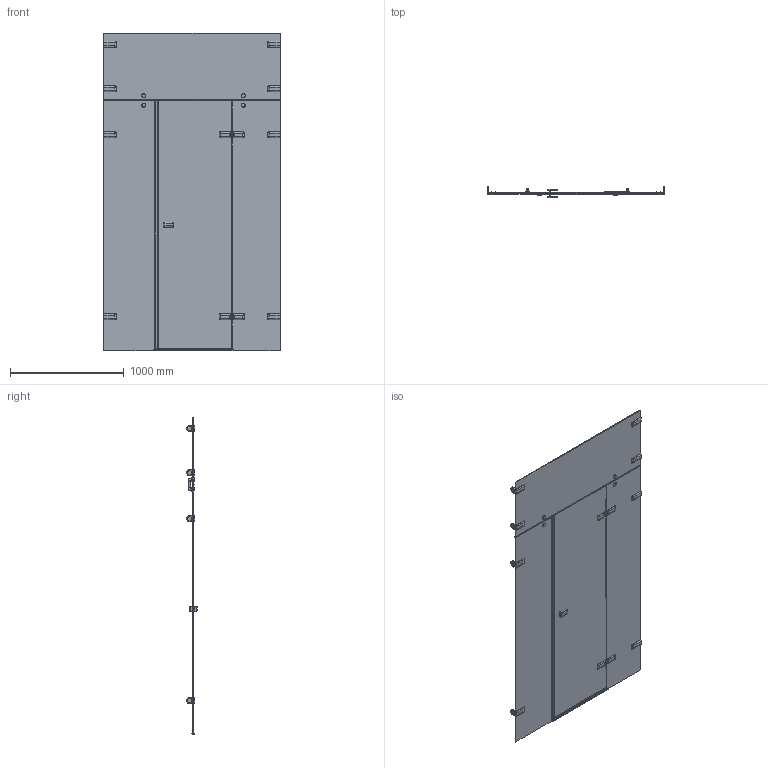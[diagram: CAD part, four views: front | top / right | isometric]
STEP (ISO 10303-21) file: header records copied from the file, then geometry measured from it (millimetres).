
FILE_DESCRIPTION(/* description */ (''),/* implementation_level */ '2;1');
FILE_NAME(/* name */ 'E:\Работа\Сергей\Душевые кабинки\! Работа\!!!\TREND DOOR GK-884ZF\TREND DOOR GK-884ZF правая модель\TREND DOOR GK-884ZF ПРАВАЯ-3D.stp',/* time_stamp */ '2017-12-24T20:39:23+03:00',/* author */ ('PC'),/* organization */ (''),/* preprocessor_version */ 'ST-DEVELOPER v15.2',/* originating_system */ 'Autodesk Inventor 2014',/* authorisation */ '');
FILE_SCHEMA (('AUTOMOTIVE_DESIGN { 1 0 10303 214 3 1 1 }'));
Products named in the file (1): TREND DOOR GK-884ZF  ПРАВАЯ-
3D
Bounding box: 1556 x 94.5 x 2796 mm (x, y, z)
Volume: 33174697.8 mm3; surface area: 9179065.5 mm2
Topology: 8 solids, 8 shells, 1714 faces, 4447 edges, 2738 vertices
Faces by surface type: plane 972, cylinder 418, bspline 182, torus 82, cone 34, sphere 26
Full cylindrical faces by diameter (mm): 6 x2, 9 x8, 13 x2, 20 x2, 21 x4, 35 x8, 36 x8, 40 x8
Entity records: 71864 total; most frequent: CARTESIAN_POINT 29578, ORIENTED_EDGE 8538, DIRECTION 8155, EDGE_CURVE 4269, AXIS2_PLACEMENT_3D 2791, VERTEX_POINT 2724, LINE 2573, VECTOR 2573
